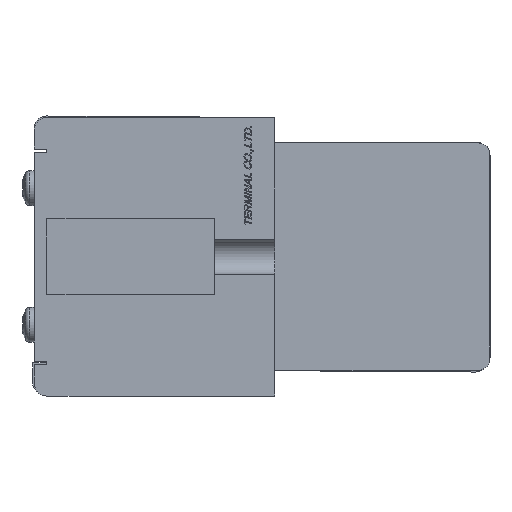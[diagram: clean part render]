
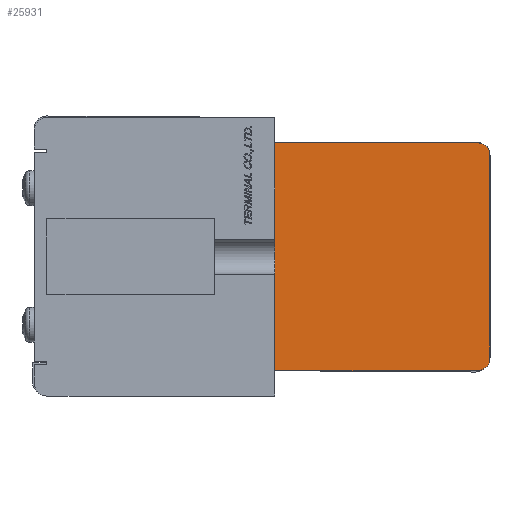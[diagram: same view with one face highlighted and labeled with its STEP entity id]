
A CAD part, left-side view. The second image highlights one B-rep face of the part: STEP entity #25931.
In plain terms, the highlighted planar face has unit normal (-1, 0, 0).
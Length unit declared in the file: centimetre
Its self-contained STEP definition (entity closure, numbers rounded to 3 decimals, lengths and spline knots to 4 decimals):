
#2097=VECTOR('',#30104,1.);
#2112=VECTOR('',#30134,1.);
#2115=VECTOR('',#30142,1.);
#2118=VECTOR('',#30150,1.);
#4776=LINE('',#37492,#2097);
#4791=LINE('',#37526,#2112);
#4794=LINE('',#37534,#2115);
#4797=LINE('',#37542,#2118);
#7433=VERTEX_POINT('',#37491);
#7434=VERTEX_POINT('',#37493);
#7442=VERTEX_POINT('',#37527);
#7443=VERTEX_POINT('',#37531);
#7444=VERTEX_POINT('',#37535);
#7445=VERTEX_POINT('',#37539);
#9044=CIRCLE('',#42713,0.2);
#9045=CIRCLE('',#42716,0.2);
#11292=EDGE_CURVE('',#7433,#7434,#4776,.T.);
#11310=EDGE_CURVE('',#7434,#7442,#4791,.T.);
#11312=EDGE_CURVE('',#7442,#7443,#9044,.T.);
#11314=EDGE_CURVE('',#7443,#7444,#4794,.T.);
#11316=EDGE_CURVE('',#7444,#7445,#9045,.T.);
#11318=EDGE_CURVE('',#7445,#7433,#4797,.T.);
#16862=ORIENTED_EDGE('',*,*,#11292,.F.);
#16863=ORIENTED_EDGE('',*,*,#11318,.F.);
#16864=ORIENTED_EDGE('',*,*,#11316,.F.);
#16865=ORIENTED_EDGE('',*,*,#11314,.F.);
#16866=ORIENTED_EDGE('',*,*,#11312,.F.);
#16867=ORIENTED_EDGE('',*,*,#11310,.F.);
#22520=EDGE_LOOP('',(#16862,#16863,#16864,#16865,#16866,#16867));
#24253=FACE_BOUND('',#22520,.T.);
#25931=ADVANCED_FACE('',(#24253),#27312,.F.);
#27312=PLANE('',#42718);
#30104=DIRECTION('',(0.,0.,1.));
#30134=DIRECTION('',(0.,-1.,0.));
#30138=DIRECTION('',(1.,0.,0.));
#30139=DIRECTION('',(0.,0.,-0.2));
#30142=DIRECTION('',(0.,0.,-1.));
#30146=DIRECTION('',(1.,0.,0.));
#30147=DIRECTION('',(0.,0.,-0.2));
#30150=DIRECTION('',(0.,1.,0.));
#30151=DIRECTION('',(1.,0.,0.));
#37491=CARTESIAN_POINT('',(-5.1,0.,-1.8));
#37492=CARTESIAN_POINT('',(-5.1,0.,1.8));
#37493=CARTESIAN_POINT('',(-5.1,0.,1.8));
#37526=CARTESIAN_POINT('',(-5.1,-3.2,1.8));
#37527=CARTESIAN_POINT('',(-5.1,-3.2,1.8));
#37530=CARTESIAN_POINT('',(-5.1,-3.2,1.6));
#37531=CARTESIAN_POINT('',(-5.1,-3.4,1.6));
#37534=CARTESIAN_POINT('',(-5.1,-3.4,-1.6));
#37535=CARTESIAN_POINT('',(-5.1,-3.4,-1.6));
#37538=CARTESIAN_POINT('',(-5.1,-3.2,-1.6));
#37539=CARTESIAN_POINT('',(-5.1,-3.2,-1.8));
#37542=CARTESIAN_POINT('',(-5.1,0.,-1.8));
#37543=CARTESIAN_POINT('',(-5.1,-1.6784,0.));
#42713=AXIS2_PLACEMENT_3D('',#37530,#30138,#30139);
#42716=AXIS2_PLACEMENT_3D('',#37538,#30146,#30147);
#42718=AXIS2_PLACEMENT_3D('',#37543,#30151,$);
